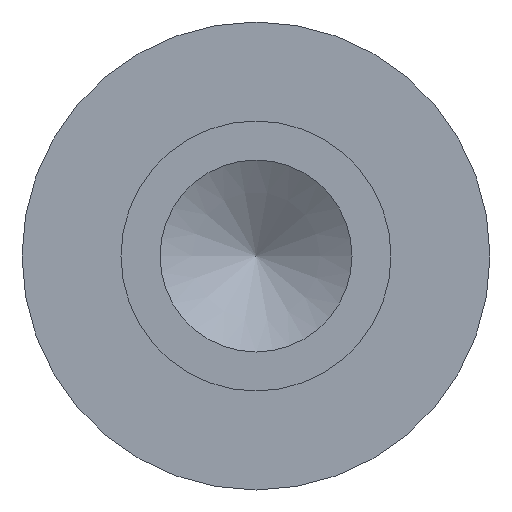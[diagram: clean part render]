
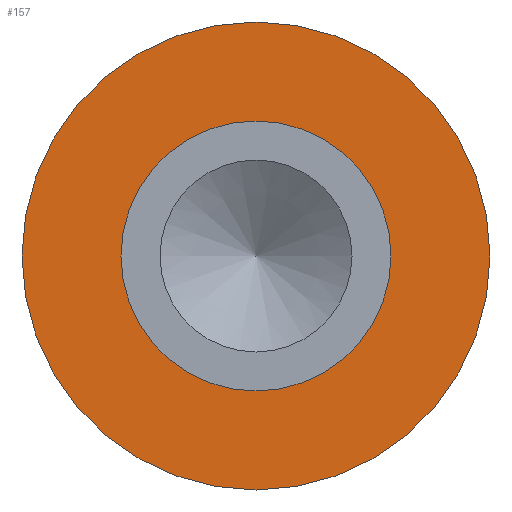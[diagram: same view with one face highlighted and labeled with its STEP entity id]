
A CAD part, left-side view. The second image highlights one B-rep face of the part: STEP entity #157.
In plain terms, the highlighted planar face has unit normal (-1, 0, 0).
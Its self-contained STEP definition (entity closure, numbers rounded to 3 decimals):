
#13=PLANE($,#179);
#22=FACE_BOUND($,#61,.T.);
#46=FACE_OUTER_BOUND($,#60,.T.);
#60=EDGE_LOOP($,(#130));
#61=EDGE_LOOP($,(#131));
#85=CIRCLE($,#177,1.143);
#87=CIRCLE($,#180,1.981);
#99=VERTEX_POINT($,#269);
#101=VERTEX_POINT($,#274);
#113=EDGE_CURVE($,#99,#99,#85,.T.);
#115=EDGE_CURVE($,#101,#101,#87,.T.);
#130=ORIENTED_EDGE($,*,*,#115,.F.);
#131=ORIENTED_EDGE($,*,*,#113,.T.);
#157=ADVANCED_FACE($,(#46,#22),#13,.T.);
#177=AXIS2_PLACEMENT_3D($,#270,#213,#214);
#179=AXIS2_PLACEMENT_3D($,#273,#217,#218);
#180=AXIS2_PLACEMENT_3D($,#275,#219,#220);
#213=DIRECTION('center_axis',(1.,0.,0.));
#214=DIRECTION('ref_axis',(0.,1.,0.));
#217=DIRECTION('center_axis',(-1.,0.,0.));
#218=DIRECTION('ref_axis',(0.,0.,1.));
#219=DIRECTION('center_axis',(1.,0.,0.));
#220=DIRECTION('ref_axis',(0.,1.,0.));
#269=CARTESIAN_POINT('',(3.58,1.143,0.));
#270=CARTESIAN_POINT('Origin',(3.58,0.,0.));
#273=CARTESIAN_POINT('Origin',(3.58,1.562,0.));
#274=CARTESIAN_POINT('',(3.58,1.981,0.));
#275=CARTESIAN_POINT('Origin',(3.58,0.,0.));
